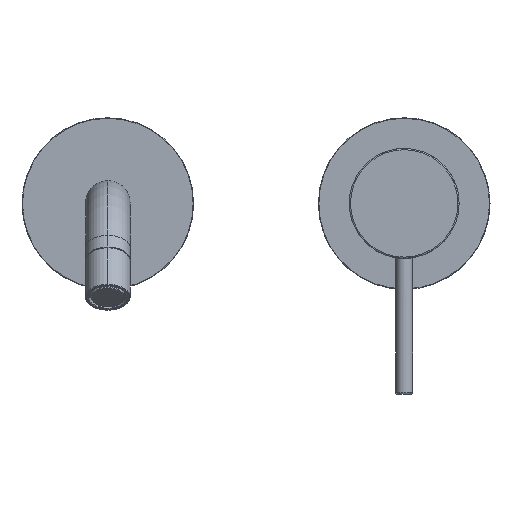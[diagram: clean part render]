
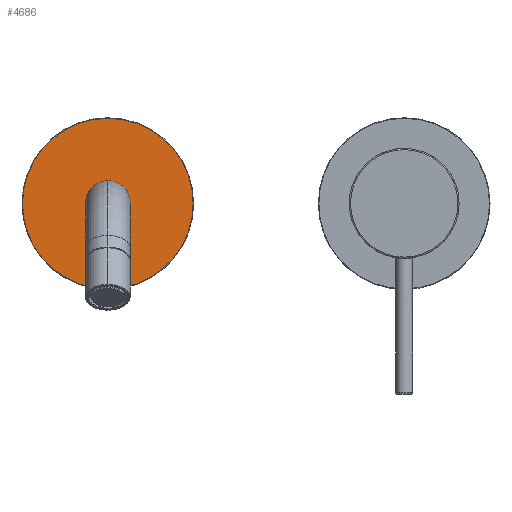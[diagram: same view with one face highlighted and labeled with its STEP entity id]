
A CAD part, top view. The second image highlights one B-rep face of the part: STEP entity #4686.
In plain terms, the highlighted planar face has unit normal (0, 0, 1).
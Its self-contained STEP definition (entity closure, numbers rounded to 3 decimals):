
#2392=CARTESIAN_POINT('',(-120.,0.,0.));
#2393=DIRECTION('',(0.,0.,1.));
#2394=DIRECTION('',(1.,0.,0.));
#2395=AXIS2_PLACEMENT_3D('',#2392,#2393,#2394);
#2397=CARTESIAN_POINT('',(-120.,0.,0.));
#2398=DIRECTION('',(0.,0.,1.));
#2399=DIRECTION('',(-1.,0.,0.));
#2400=AXIS2_PLACEMENT_3D('',#2397,#2398,#2399);
#2407=CARTESIAN_POINT('',(-120.,0.,0.));
#2408=DIRECTION('',(0.,0.,1.));
#2409=DIRECTION('',(0.,1.,0.));
#2410=AXIS2_PLACEMENT_3D('',#2407,#2408,#2409);
#2416=CARTESIAN_POINT('',(-120.,0.,0.));
#2417=DIRECTION('',(0.,0.,1.));
#2418=DIRECTION('',(0.,-1.,0.));
#2419=AXIS2_PLACEMENT_3D('',#2416,#2417,#2418);
#3686=CARTESIAN_POINT('',(-85.45,0.,0.));
#3687=CARTESIAN_POINT('',(-154.55,0.,0.));
#3688=VERTEX_POINT('',#3686);
#3689=VERTEX_POINT('',#3687);
#3726=CARTESIAN_POINT('',(-120.,8.8,
0.));
#3727=CARTESIAN_POINT('',(-120.,-8.8,
0.));
#3728=VERTEX_POINT('',#3726);
#3729=VERTEX_POINT('',#3727);
#4670=CARTESIAN_POINT('',(-120.,0.,0.));
#4671=DIRECTION('',(0.,0.,-1.));
#4672=DIRECTION('',(-1.,0.,0.));
#4673=AXIS2_PLACEMENT_3D('',#4670,#4671,#4672);
#4674=PLANE('',#4673);
#4675=ORIENTED_EDGE('',*,*,#4660,.F.);
#4677=ORIENTED_EDGE('',*,*,#4676,.F.);
#4678=EDGE_LOOP('',(#4675,#4677));
#4679=FACE_OUTER_BOUND('',#4678,.F.);
#4681=ORIENTED_EDGE('',*,*,#4680,.T.);
#4683=ORIENTED_EDGE('',*,*,#4682,.T.);
#4684=EDGE_LOOP('',(#4681,#4683));
#4685=FACE_BOUND('',#4684,.F.);
#4686=ADVANCED_FACE('',(#4679,#4685),#4674,.F.);
#2396=CIRCLE('',#2395,34.55);
#2401=CIRCLE('',#2400,34.55);
#2411=CIRCLE('',#2410,8.8);
#2420=CIRCLE('',#2419,8.8);
#4660=EDGE_CURVE('',#3688,#3689,#2396,.T.);
#4676=EDGE_CURVE('',#3689,#3688,#2401,.T.);
#4680=EDGE_CURVE('',#3728,#3729,#2411,.T.);
#4682=EDGE_CURVE('',#3729,#3728,#2420,.T.);
